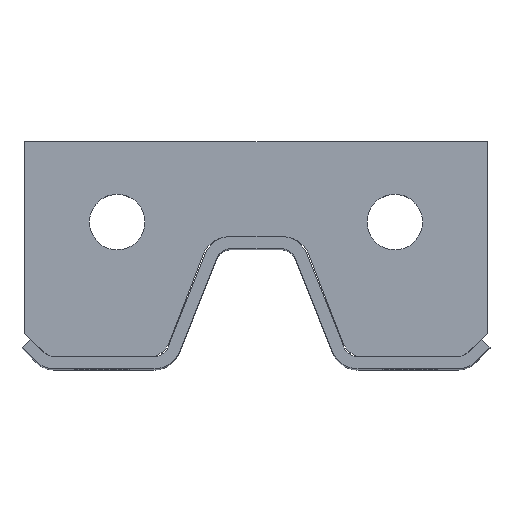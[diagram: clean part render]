
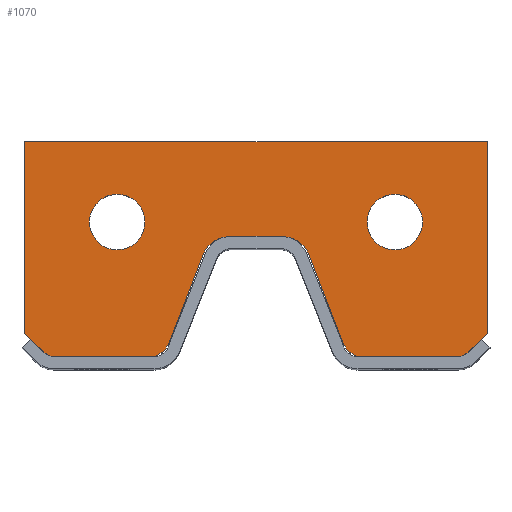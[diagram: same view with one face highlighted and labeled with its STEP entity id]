
A CAD part, top view. The second image highlights one B-rep face of the part: STEP entity #1070.
In plain terms, the highlighted planar face has unit normal (0, 0, 1).
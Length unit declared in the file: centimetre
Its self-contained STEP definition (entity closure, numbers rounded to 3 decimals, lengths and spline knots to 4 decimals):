
#40=FACE_BOUND('',#107,.T.);
#41=FACE_BOUND('',#108,.T.);
#52=FACE_OUTER_BOUND('',#106,.T.);
#106=EDGE_LOOP('',(#716,#717,#718,#719,#720,#721,#722,#723,#724,#725,#726,
#727,#728,#729,#730,#731,#732,#733));
#107=EDGE_LOOP('',(#734));
#108=EDGE_LOOP('',(#735));
#172=CIRCLE('',#1127,0.8);
#173=CIRCLE('',#1128,0.8);
#174=CIRCLE('',#1129,0.8);
#175=CIRCLE('',#1130,0.8);
#176=CIRCLE('',#1131,0.8);
#177=CIRCLE('',#1132,0.8);
#178=CIRCLE('',#1133,0.9);
#179=CIRCLE('',#1134,0.9);
#220=LINE('',#1552,#334);
#221=LINE('',#1556,#335);
#222=LINE('',#1560,#336);
#223=LINE('',#1564,#337);
#224=LINE('',#1566,#338);
#225=LINE('',#1568,#339);
#226=LINE('',#1570,#340);
#227=LINE('',#1572,#341);
#228=LINE('',#1576,#342);
#229=LINE('',#1580,#343);
#230=LINE('',#1584,#344);
#231=LINE('',#1585,#345);
#334=VECTOR('',#1232,0.1);
#335=VECTOR('',#1235,0.1);
#336=VECTOR('',#1238,0.1);
#337=VECTOR('',#1241,0.1);
#338=VECTOR('',#1242,0.1);
#339=VECTOR('',#1243,0.1);
#340=VECTOR('',#1244,0.1);
#341=VECTOR('',#1245,0.1);
#342=VECTOR('',#1248,0.1);
#343=VECTOR('',#1251,0.1);
#344=VECTOR('',#1254,0.1);
#345=VECTOR('',#1255,0.1);
#448=VERTEX_POINT('',#1550);
#449=VERTEX_POINT('',#1551);
#450=VERTEX_POINT('',#1553);
#451=VERTEX_POINT('',#1555);
#452=VERTEX_POINT('',#1557);
#453=VERTEX_POINT('',#1559);
#454=VERTEX_POINT('',#1561);
#455=VERTEX_POINT('',#1563);
#456=VERTEX_POINT('',#1565);
#457=VERTEX_POINT('',#1567);
#458=VERTEX_POINT('',#1569);
#459=VERTEX_POINT('',#1571);
#460=VERTEX_POINT('',#1573);
#461=VERTEX_POINT('',#1575);
#462=VERTEX_POINT('',#1577);
#463=VERTEX_POINT('',#1579);
#464=VERTEX_POINT('',#1581);
#465=VERTEX_POINT('',#1583);
#466=VERTEX_POINT('',#1586);
#467=VERTEX_POINT('',#1588);
#554=EDGE_CURVE('',#448,#449,#220,.T.);
#555=EDGE_CURVE('',#449,#450,#172,.T.);
#556=EDGE_CURVE('',#450,#451,#221,.T.);
#557=EDGE_CURVE('',#451,#452,#173,.T.);
#558=EDGE_CURVE('',#453,#452,#222,.T.);
#559=EDGE_CURVE('',#453,#454,#174,.T.);
#560=EDGE_CURVE('',#454,#455,#223,.T.);
#561=EDGE_CURVE('',#455,#456,#224,.T.);
#562=EDGE_CURVE('',#456,#457,#225,.T.);
#563=EDGE_CURVE('',#457,#458,#226,.T.);
#564=EDGE_CURVE('',#458,#459,#227,.T.);
#565=EDGE_CURVE('',#459,#460,#175,.T.);
#566=EDGE_CURVE('',#461,#460,#228,.T.);
#567=EDGE_CURVE('',#461,#462,#176,.T.);
#568=EDGE_CURVE('',#462,#463,#229,.T.);
#569=EDGE_CURVE('',#463,#464,#177,.T.);
#570=EDGE_CURVE('',#464,#465,#230,.T.);
#571=EDGE_CURVE('',#448,#465,#231,.T.);
#572=EDGE_CURVE('',#466,#466,#178,.T.);
#573=EDGE_CURVE('',#467,#467,#179,.T.);
#716=ORIENTED_EDGE('',*,*,#554,.T.);
#717=ORIENTED_EDGE('',*,*,#555,.T.);
#718=ORIENTED_EDGE('',*,*,#556,.T.);
#719=ORIENTED_EDGE('',*,*,#557,.T.);
#720=ORIENTED_EDGE('',*,*,#558,.F.);
#721=ORIENTED_EDGE('',*,*,#559,.T.);
#722=ORIENTED_EDGE('',*,*,#560,.T.);
#723=ORIENTED_EDGE('',*,*,#561,.T.);
#724=ORIENTED_EDGE('',*,*,#562,.T.);
#725=ORIENTED_EDGE('',*,*,#563,.T.);
#726=ORIENTED_EDGE('',*,*,#564,.T.);
#727=ORIENTED_EDGE('',*,*,#565,.T.);
#728=ORIENTED_EDGE('',*,*,#566,.F.);
#729=ORIENTED_EDGE('',*,*,#567,.T.);
#730=ORIENTED_EDGE('',*,*,#568,.T.);
#731=ORIENTED_EDGE('',*,*,#569,.T.);
#732=ORIENTED_EDGE('',*,*,#570,.T.);
#733=ORIENTED_EDGE('',*,*,#571,.F.);
#734=ORIENTED_EDGE('',*,*,#572,.T.);
#735=ORIENTED_EDGE('',*,*,#573,.T.);
#1040=PLANE('',#1126);
#1070=ADVANCED_FACE('',(#52,#40,#41),#1040,.T.);
#1126=AXIS2_PLACEMENT_3D('',#1549,#1230,#1231);
#1127=AXIS2_PLACEMENT_3D('',#1554,#1233,#1234);
#1128=AXIS2_PLACEMENT_3D('',#1558,#1236,#1237);
#1129=AXIS2_PLACEMENT_3D('',#1562,#1239,#1240);
#1130=AXIS2_PLACEMENT_3D('',#1574,#1246,#1247);
#1131=AXIS2_PLACEMENT_3D('',#1578,#1249,#1250);
#1132=AXIS2_PLACEMENT_3D('',#1582,#1252,#1253);
#1133=AXIS2_PLACEMENT_3D('',#1587,#1256,#1257);
#1134=AXIS2_PLACEMENT_3D('',#1589,#1258,#1259);
#1230=DIRECTION('center_axis',(0.,0.,1.));
#1231=DIRECTION('ref_axis',(1.,0.,0.));
#1232=DIRECTION('',(1.,0.,0.));
#1233=DIRECTION('center_axis',(0.,0.,-1.));
#1234=DIRECTION('ref_axis',(0.566,0.824,0.));
#1235=DIRECTION('',(0.359,-0.933,0.));
#1236=DIRECTION('center_axis',(0.,0.,1.));
#1237=DIRECTION('ref_axis',(-0.566,-0.824,0.));
#1238=DIRECTION('',(-1.,0.,0.));
#1239=DIRECTION('center_axis',(0.,0.,1.));
#1240=DIRECTION('ref_axis',(0.383,-0.924,0.));
#1241=DIRECTION('',(0.707,0.707,0.));
#1242=DIRECTION('',(0.,1.,0.));
#1243=DIRECTION('',(-1.,0.,0.));
#1244=DIRECTION('',(0.,-1.,0.));
#1245=DIRECTION('',(0.707,-0.707,0.));
#1246=DIRECTION('center_axis',(0.,0.,1.));
#1247=DIRECTION('ref_axis',(-0.383,-0.924,0.));
#1248=DIRECTION('',(-1.,0.,0.));
#1249=DIRECTION('center_axis',(0.,0.,1.));
#1250=DIRECTION('ref_axis',(0.566,-0.824,0.));
#1251=DIRECTION('',(0.359,0.933,0.));
#1252=DIRECTION('center_axis',(0.,0.,-1.));
#1253=DIRECTION('ref_axis',(-0.566,0.824,0.));
#1254=DIRECTION('',(1.,0.,0.));
#1255=DIRECTION('',(-1.,0.,0.));
#1256=DIRECTION('center_axis',(0.,0.,-1.));
#1257=DIRECTION('ref_axis',(1.,0.,0.));
#1258=DIRECTION('center_axis',(0.,0.,-1.));
#1259=DIRECTION('ref_axis',(1.,0.,0.));
#1549=CARTESIAN_POINT('Origin',(-52.4958,190.4396,1.));
#1550=CARTESIAN_POINT('',(-55.1851,189.9396,1.));
#1551=CARTESIAN_POINT('',(-55.0452,189.9396,1.));
#1552=CARTESIAN_POINT('',(-56.9463,189.9396,1.));
#1553=CARTESIAN_POINT('',(-54.2985,189.4268,1.));
#1554=CARTESIAN_POINT('Origin',(-55.0452,189.1396,1.));
#1555=CARTESIAN_POINT('',(-53.193,186.5524,1.));
#1556=CARTESIAN_POINT('',(-54.2985,189.4268,1.));
#1557=CARTESIAN_POINT('',(-52.4463,186.0396,1.));
#1558=CARTESIAN_POINT('Origin',(-52.4463,186.8396,1.));
#1559=CARTESIAN_POINT('',(-49.6271,186.0396,1.));
#1560=CARTESIAN_POINT('',(-52.5904,186.0396,1.));
#1561=CARTESIAN_POINT('',(-49.0614,186.2739,1.));
#1562=CARTESIAN_POINT('Origin',(-49.6271,186.8396,1.));
#1563=CARTESIAN_POINT('',(-48.4958,186.8396,1.));
#1564=CARTESIAN_POINT('',(-49.0614,186.2739,1.));
#1565=CARTESIAN_POINT('',(-48.4958,193.0396,1.));
#1566=CARTESIAN_POINT('',(-48.4958,186.8396,1.));
#1567=CARTESIAN_POINT('',(-63.4958,193.0396,1.));
#1568=CARTESIAN_POINT('',(-48.4958,193.0396,1.));
#1569=CARTESIAN_POINT('',(-63.4958,186.8396,1.));
#1570=CARTESIAN_POINT('',(-63.4958,193.0396,1.));
#1571=CARTESIAN_POINT('',(-62.9301,186.2739,1.));
#1572=CARTESIAN_POINT('',(-63.4958,186.8396,1.));
#1573=CARTESIAN_POINT('',(-62.3644,186.0396,1.));
#1574=CARTESIAN_POINT('Origin',(-62.3644,186.8396,1.));
#1575=CARTESIAN_POINT('',(-59.5452,186.0396,1.));
#1576=CARTESIAN_POINT('',(-57.5084,186.0396,1.));
#1577=CARTESIAN_POINT('',(-58.7985,186.5524,1.));
#1578=CARTESIAN_POINT('Origin',(-59.5452,186.8396,1.));
#1579=CARTESIAN_POINT('',(-57.693,189.4268,1.));
#1580=CARTESIAN_POINT('',(-58.7985,186.5524,1.));
#1581=CARTESIAN_POINT('',(-56.9463,189.9396,1.));
#1582=CARTESIAN_POINT('Origin',(-56.9463,189.1396,1.));
#1583=CARTESIAN_POINT('',(-56.8064,189.9396,1.));
#1584=CARTESIAN_POINT('',(-56.9463,189.9396,1.));
#1585=CARTESIAN_POINT('',(-54.6511,189.9396,1.));
#1586=CARTESIAN_POINT('',(-61.3958,190.4396,1.));
#1587=CARTESIAN_POINT('Origin',(-60.4958,190.4396,1.));
#1588=CARTESIAN_POINT('',(-52.3958,190.4396,1.));
#1589=CARTESIAN_POINT('Origin',(-51.4958,190.4396,1.));
